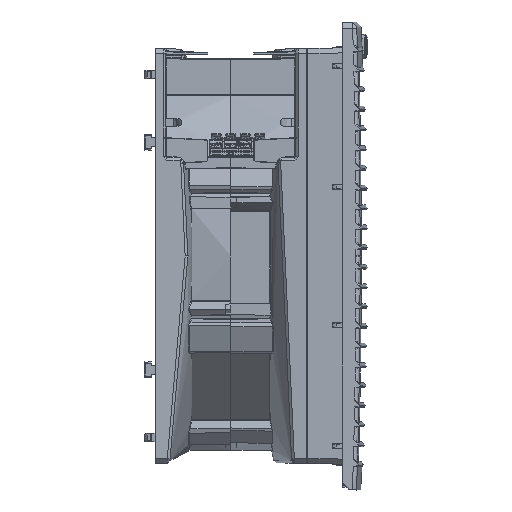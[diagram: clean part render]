
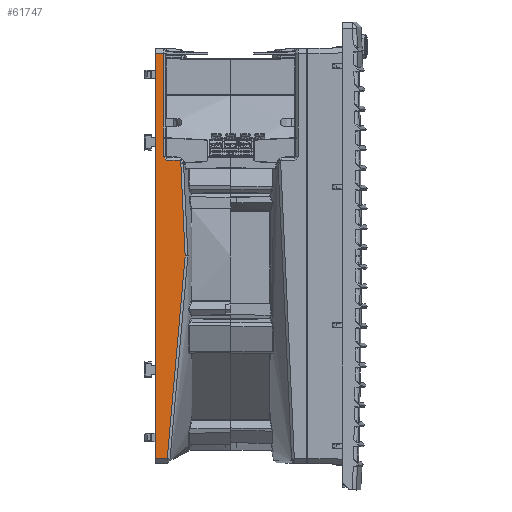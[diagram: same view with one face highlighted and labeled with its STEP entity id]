
A CAD part, left-side view. The second image highlights one B-rep face of the part: STEP entity #61747.
In plain terms, the highlighted planar face has unit normal (-0.999, -0.035, 0).
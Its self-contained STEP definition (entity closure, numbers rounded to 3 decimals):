
#61747=ADVANCED_FACE('',(#67704),#192157,.T.);
#67704=FACE_OUTER_BOUND('',#73693,.T.);
#73693=EDGE_LOOP('',(#90588,#90589,#90590,#90591,#90592,#90593,#90594,#90595,
#90596,#90597,#90598,#90599,#90600));
#90588=ORIENTED_EDGE('',*,*,#120530,.T.);
#90589=ORIENTED_EDGE('',*,*,#120531,.T.);
#90590=ORIENTED_EDGE('',*,*,#120532,.T.);
#90591=ORIENTED_EDGE('',*,*,#120533,.T.);
#90592=ORIENTED_EDGE('',*,*,#120534,.T.);
#90593=ORIENTED_EDGE('',*,*,#120535,.T.);
#90594=ORIENTED_EDGE('',*,*,#120536,.T.);
#90595=ORIENTED_EDGE('',*,*,#120537,.T.);
#90596=ORIENTED_EDGE('',*,*,#120538,.T.);
#90597=ORIENTED_EDGE('',*,*,#120539,.T.);
#90598=ORIENTED_EDGE('',*,*,#120540,.T.);
#90599=ORIENTED_EDGE('',*,*,#120541,.T.);
#90600=ORIENTED_EDGE('',*,*,#120542,.T.);
#120530=EDGE_CURVE('',#175504,#175505,#148986,.T.);
#120531=EDGE_CURVE('',#175505,#175506,#148987,.T.);
#120532=EDGE_CURVE('',#175506,#175507,#148988,.T.);
#120533=EDGE_CURVE('',#175507,#175508,#148989,.T.);
#120534=EDGE_CURVE('',#175508,#175509,#148990,.T.);
#120535=EDGE_CURVE('',#175509,#175510,#148991,.T.);
#120536=EDGE_CURVE('',#175510,#175511,#148992,.T.);
#120537=EDGE_CURVE('',#175511,#175512,#148993,.T.);
#120538=EDGE_CURVE('',#175512,#175513,#148994,.T.);
#120539=EDGE_CURVE('',#175513,#175514,#148995,.T.);
#120540=EDGE_CURVE('',#175514,#175515,#148996,.T.);
#120541=EDGE_CURVE('',#175515,#175516,#148997,.T.);
#120542=EDGE_CURVE('',#175516,#175504,#148998,.T.);
#148986=B_SPLINE_CURVE_WITH_KNOTS('',1,(#382178,#382179),.UNSPECIFIED.,
 .F.,.F.,(2,2),(0.,5.573),.UNSPECIFIED.);
#148987=B_SPLINE_CURVE_WITH_KNOTS('',1,(#382180,#382181),.UNSPECIFIED.,
 .F.,.F.,(2,2),(0.,281.5),.UNSPECIFIED.);
#148988=B_SPLINE_CURVE_WITH_KNOTS('',1,(#382182,#382183),.UNSPECIFIED.,
 .F.,.F.,(2,2),(0.,8.384),.UNSPECIFIED.);
#148989=B_SPLINE_CURVE_WITH_KNOTS('',5,(#382184,#382185,#382186,#382187,
#382188,#382189,#382190,#382191,#382192,#382193,#382194,#382195),
 .UNSPECIFIED.,.F.,.F.,(6,3,3,6),(0.,44.155,87.941,
141.445),.UNSPECIFIED.);
#148990=B_SPLINE_CURVE_WITH_KNOTS('',4,(#382196,#382197,#382198,#382199,
#382200),.UNSPECIFIED.,.F.,.F.,(5,5),(0.,64.294),
 .UNSPECIFIED.);
#148991=B_SPLINE_CURVE_WITH_KNOTS('',4,(#382201,#382202,#382203,#382204,
#382205),.UNSPECIFIED.,.F.,.F.,(5,5),(0.,0.491),
 .UNSPECIFIED.);
#148992=B_SPLINE_CURVE_WITH_KNOTS('',3,(#382206,#382207,#382208,#382209),
 .UNSPECIFIED.,.F.,.F.,(4,4),(0.,1.479),.UNSPECIFIED.);
#148993=B_SPLINE_CURVE_WITH_KNOTS('',5,(#382210,#382211,#382212,#382213,
#382214,#382215),.UNSPECIFIED.,.F.,.F.,(6,6),(0.,0.203),
 .UNSPECIFIED.);
#148994=B_SPLINE_CURVE_WITH_KNOTS('',3,(#382216,#382217,#382218,#382219),
 .UNSPECIFIED.,.F.,.F.,(4,4),(0.,9.535),.UNSPECIFIED.);
#148995=B_SPLINE_CURVE_WITH_KNOTS('',5,(#382220,#382221,#382222,#382223,
#382224,#382225),.UNSPECIFIED.,.F.,.F.,(6,6),(0.,3.956),
 .UNSPECIFIED.);
#148996=B_SPLINE_CURVE_WITH_KNOTS('',1,(#382226,#382227),.UNSPECIFIED.,
 .F.,.F.,(2,2),(0.,12.911),.UNSPECIFIED.);
#148997=B_SPLINE_CURVE_WITH_KNOTS('',5,(#382228,#382229,#382230,#382231,
#382232,#382233,#382234,#382235,#382236,#382237,#382238,#382239,#382240,
#382241,#382242),.UNSPECIFIED.,.F.,.F.,(6,3,3,3,6),(0.,0.28,
0.419,0.552,0.685),.UNSPECIFIED.);
#148998=B_SPLINE_CURVE_WITH_KNOTS('',1,(#382243,#382244),.UNSPECIFIED.,
 .F.,.F.,(2,2),(0.,58.172),.UNSPECIFIED.);
#175504=VERTEX_POINT('',#382165);
#175505=VERTEX_POINT('',#382166);
#175506=VERTEX_POINT('',#382167);
#175507=VERTEX_POINT('',#382168);
#175508=VERTEX_POINT('',#382169);
#175509=VERTEX_POINT('',#382170);
#175510=VERTEX_POINT('',#382171);
#175511=VERTEX_POINT('',#382172);
#175512=VERTEX_POINT('',#382173);
#175513=VERTEX_POINT('',#382174);
#175514=VERTEX_POINT('',#382175);
#175515=VERTEX_POINT('',#382176);
#175516=VERTEX_POINT('',#382177);
#192157=PLANE('',#193824);
#193824=AXIS2_PLACEMENT_3D('',#382164,#195483,$);
#195483=DIRECTION('',(-0.999,-0.035,0.));
#382164=CARTESIAN_POINT('',(-143.517,123.254,-101.5));
#382165=CARTESIAN_POINT('',(-144.055,138.68,180.));
#382166=CARTESIAN_POINT('',(-144.25,144.25,180.));
#382167=CARTESIAN_POINT('',(-144.25,144.25,-101.5));
#382168=CARTESIAN_POINT('',(-143.957,135.872,-101.5));
#382169=CARTESIAN_POINT('',(-143.524,123.462,39.25));
#382170=CARTESIAN_POINT('',(-143.628,126.432,103.44));
#382171=CARTESIAN_POINT('',(-143.629,126.468,103.929));
#382172=CARTESIAN_POINT('',(-143.634,126.6,105.402));
#382173=CARTESIAN_POINT('',(-143.639,126.75,105.5));
#382174=CARTESIAN_POINT('',(-143.971,136.275,105.79));
#382175=CARTESIAN_POINT('',(-144.054,138.641,108.233));
#382176=CARTESIAN_POINT('',(-144.054,138.641,121.144));
#382177=CARTESIAN_POINT('',(-144.055,138.68,121.828));
#382178=CARTESIAN_POINT('',(-144.055,138.68,180.));
#382179=CARTESIAN_POINT('',(-144.25,144.25,180.));
#382180=CARTESIAN_POINT('',(-144.25,144.25,180.));
#382181=CARTESIAN_POINT('',(-144.25,144.25,-101.5));
#382182=CARTESIAN_POINT('',(-144.25,144.25,-101.5));
#382183=CARTESIAN_POINT('',(-143.957,135.872,-101.5));
#382184=CARTESIAN_POINT('',(-143.957,135.872,-101.5));
#382185=CARTESIAN_POINT('',(-143.913,134.596,-93.023));
#382186=CARTESIAN_POINT('',(-143.87,133.36,-84.486));
#382187=CARTESIAN_POINT('',(-143.828,132.171,-75.888));
#382188=CARTESIAN_POINT('',(-143.75,129.92,-58.654));
#382189=CARTESIAN_POINT('',(-143.681,127.957,-41.198));
#382190=CARTESIAN_POINT('',(-143.65,127.064,-32.454));
#382191=CARTESIAN_POINT('',(-143.589,125.308,-12.936));
#382192=CARTESIAN_POINT('',(-143.547,124.13,6.728));
#382193=CARTESIAN_POINT('',(-143.532,123.684,17.565));
#382194=CARTESIAN_POINT('',(-143.524,123.462,28.407));
#382195=CARTESIAN_POINT('',(-143.524,123.462,39.25));
#382196=CARTESIAN_POINT('',(-143.524,123.462,39.25));
#382197=CARTESIAN_POINT('',(-143.524,123.462,55.347));
#382198=CARTESIAN_POINT('',(-143.542,123.987,71.443));
#382199=CARTESIAN_POINT('',(-143.579,125.024,87.508));
#382200=CARTESIAN_POINT('',(-143.628,126.432,103.44));
#382201=CARTESIAN_POINT('',(-143.628,126.432,103.44));
#382202=CARTESIAN_POINT('',(-143.628,126.444,103.577));
#382203=CARTESIAN_POINT('',(-143.628,126.45,103.7));
#382204=CARTESIAN_POINT('',(-143.629,126.457,103.811));
#382205=CARTESIAN_POINT('',(-143.629,126.468,103.929));
#382206=CARTESIAN_POINT('',(-143.629,126.468,103.929));
#382207=CARTESIAN_POINT('',(-143.631,126.512,104.42));
#382208=CARTESIAN_POINT('',(-143.632,126.556,104.911));
#382209=CARTESIAN_POINT('',(-143.634,126.6,105.402));
#382210=CARTESIAN_POINT('',(-143.634,126.6,105.402));
#382211=CARTESIAN_POINT('',(-143.634,126.601,105.416));
#382212=CARTESIAN_POINT('',(-143.634,126.606,105.433));
#382213=CARTESIAN_POINT('',(-143.635,126.632,105.476));
#382214=CARTESIAN_POINT('',(-143.637,126.692,105.498));
#382215=CARTESIAN_POINT('',(-143.639,126.75,105.5));
#382216=CARTESIAN_POINT('',(-143.639,126.75,105.5));
#382217=CARTESIAN_POINT('',(-143.75,129.925,105.594));
#382218=CARTESIAN_POINT('',(-143.861,133.1,105.691));
#382219=CARTESIAN_POINT('',(-143.971,136.275,105.79));
#382220=CARTESIAN_POINT('',(-143.971,136.275,105.79));
#382221=CARTESIAN_POINT('',(-143.998,137.026,105.814));
#382222=CARTESIAN_POINT('',(-144.024,137.77,106.126));
#382223=CARTESIAN_POINT('',(-144.044,138.352,106.727));
#382224=CARTESIAN_POINT('',(-144.054,138.641,107.48));
#382225=CARTESIAN_POINT('',(-144.054,138.641,108.233));
#382226=CARTESIAN_POINT('',(-144.054,138.641,108.233));
#382227=CARTESIAN_POINT('',(-144.054,138.641,121.144));
#382228=CARTESIAN_POINT('',(-144.054,138.641,121.144));
#382229=CARTESIAN_POINT('',(-144.054,138.641,121.179));
#382230=CARTESIAN_POINT('',(-144.054,138.642,121.214));
#382231=CARTESIAN_POINT('',(-144.054,138.643,121.25));
#382232=CARTESIAN_POINT('',(-144.054,138.648,121.31));
#382233=CARTESIAN_POINT('',(-144.055,138.654,121.382));
#382234=CARTESIAN_POINT('',(-144.055,138.656,121.409));
#382235=CARTESIAN_POINT('',(-144.055,138.661,121.463));
#382236=CARTESIAN_POINT('',(-144.055,138.667,121.527));
#382237=CARTESIAN_POINT('',(-144.055,138.67,121.559));
#382238=CARTESIAN_POINT('',(-144.055,138.674,121.629));
#382239=CARTESIAN_POINT('',(-144.055,138.678,121.706));
#382240=CARTESIAN_POINT('',(-144.055,138.679,121.745));
#382241=CARTESIAN_POINT('',(-144.055,138.68,121.786));
#382242=CARTESIAN_POINT('',(-144.055,138.68,121.828));
#382243=CARTESIAN_POINT('',(-144.055,138.68,121.828));
#382244=CARTESIAN_POINT('',(-144.055,138.68,180.));
